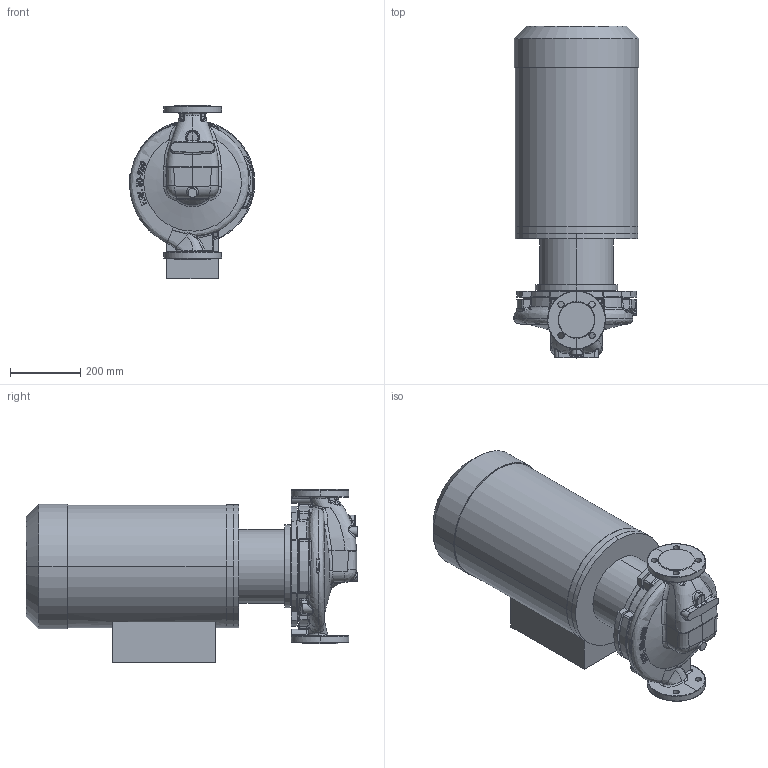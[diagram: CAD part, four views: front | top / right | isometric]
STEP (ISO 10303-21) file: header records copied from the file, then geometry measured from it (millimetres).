
FILE_DESCRIPTION (( 'STEP AP214' ), '1' );
FILE_NAME ('KRL 50-250-2-22.STEP', '2026-03-23T07:36:39', ( '' ), ( '' ), 'SwSTEP 2.0', 'SolidWorks 2016', '' );
FILE_SCHEMA (( 'AUTOMOTIVE_DESIGN' ));
Length unit declared in the file: millimetre
Products named in the file (1): KRL 50-250-2-22
Bounding box: 358.07 x 945.3 x 495 mm (x, y, z)
Volume: 79883319.8 mm3; surface area: 1913990.8 mm2
Topology: 4 solids, 4 shells, 873 faces, 2158 edges, 1302 vertices
Faces by surface type: bspline 456, plane 150, cylinder 141, sphere 47, cone 44, torus 35
Entity records: 74287 total; most frequent: CARTESIAN_POINT 47844, ORIENTED_EDGE 4272, DIRECTION 2411, EDGE_CURVE 2136, VERTEX_POINT 1302, AXIS2_PLACEMENT_3D 987, B_SPLINE_CURVE_WITH_KNOTS 960, EDGE_LOOP 920
